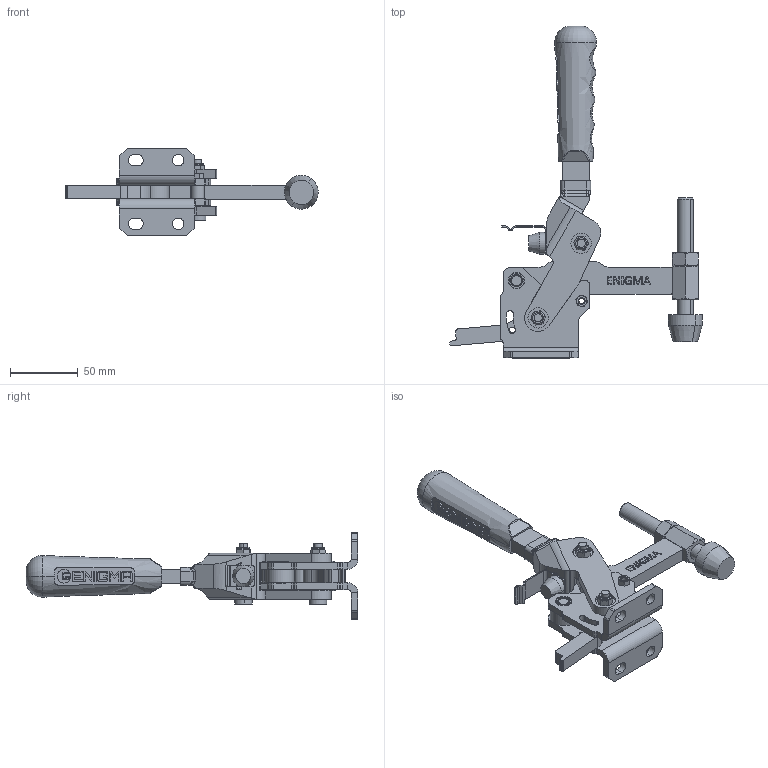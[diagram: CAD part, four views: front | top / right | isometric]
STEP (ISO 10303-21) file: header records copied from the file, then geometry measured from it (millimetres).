
FILE_DESCRIPTION (( 'STEP AP203' ), '1' );
FILE_NAME ('1553_Y.STEP', '2022-12-02T10:14:13', ( '' ), ( '' ), 'SwSTEP 2.0', 'SolidWorks 2023', '' );
FILE_SCHEMA (( 'CONFIG_CONTROL_DESIGN' ));
Length unit declared in the file: millimetre
Products named in the file (20): M12 Somun_Varsayılan; 1533_mafsal_Varsayılan; yaprak yay_Varsayılan; 1533_baskı kolu_Varsayılan; Aynalama1533_Enigma Gövde_Varsayılan; 1553_Y; M6 fiberli Somun_Varsayılan; 1533_dovme mafsal_Varsayılan; 1533_Arka Kilit_Varsayılan; 1533_cap8x18_ara mesafe burcu_Varsayılan; 1533_Enigma Gövde_Varsayılan; 1533_hareket kolu_Varsayılan; G39x6x8x30_Varsayılan; 1533_M12 Lama Ön Somunu_Varsayılan; M5 Somun_Varsayılan; 1533_cap5x10_on paralel burc_Varsayılan; Burc_1503_12x8x5_Varsayılan; C100_T_10x20(YENİ_TUTAMAK_10x20)_Varsayılan; Baskı M12_Varsayılan; 1533_Cap8x20 Tırtıllı Pim_Varsayılan
Assembly tree (31 placements, depth 2):
  1553_Y
    1533_Enigma Gövde_Varsayılan
    1533_baskı kolu_Varsayılan
    1533_mafsal_Varsayılan  x2
    1533_dovme mafsal_Varsayılan
    G39x6x8x30_Varsayılan  x2
    M6 fiberli Somun_Varsayılan  x2
    1533_Cap8x20 Tırtıllı Pim_Varsayılan  x2
    M5 Somun_Varsayılan
    1533_cap8x18_ara mesafe burcu_Varsayılan  x2
    Burc_1503_12x8x5_Varsayılan  x8
    1533_cap5x10_on paralel burc_Varsayılan
    1533_hareket kolu_Varsayılan
    1533_M12 Lama Ön Somunu_Varsayılan
    Baskı M12_Varsayılan
    M12 Somun_Varsayılan
    Aynalama1533_Enigma Gövde_Varsayılan
    1533_Arka Kilit_Varsayılan
    yaprak yay_Varsayılan
    C100_T_10x20(YENİ_TUTAMAK_10x20)_Varsayılan
Bounding box: 186.24 x 244.82 x 64 mm (x, y, z)
Volume: 235152.8 mm3; surface area: 100193.7 mm2
Topology: 31 solids, 31 shells, 1840 faces, 4766 edges, 3112 vertices
Faces by surface type: plane 1157, cylinder 331, bspline 186, cone 148, torus 18
Entity records: 45866 total; most frequent: CARTESIAN_POINT 16345, ORIENTED_EDGE 5982, DIRECTION 5041, EDGE_CURVE 2991, VERTEX_POINT 1956, VECTOR 1797, LINE 1797, AXIS2_PLACEMENT_3D 1622
